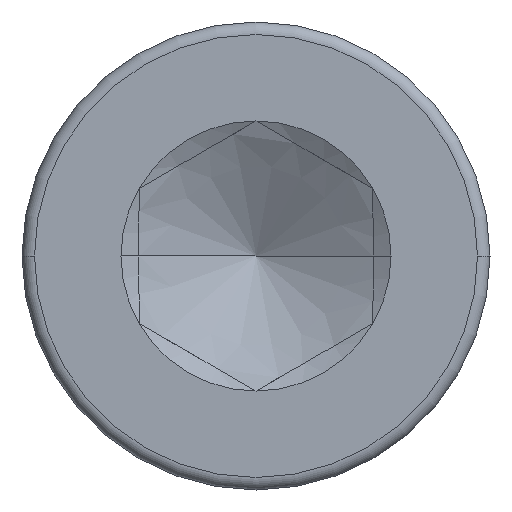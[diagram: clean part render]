
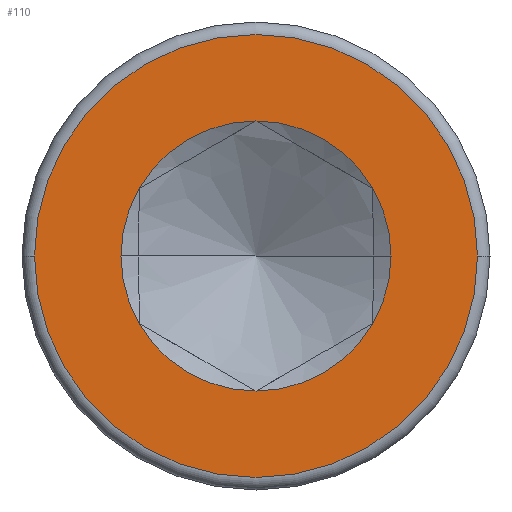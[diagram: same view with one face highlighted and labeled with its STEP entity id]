
A CAD part, left-side view. The second image highlights one B-rep face of the part: STEP entity #110.
In plain terms, the highlighted planar face has unit normal (-1, 0, 0).
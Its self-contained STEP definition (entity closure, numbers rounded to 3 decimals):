
#46=FACE_BOUND('',#189,.F.);
#52=PLANE('',#910);
#110=ADVANCED_FACE('',(#46,#149),#52,.T.);
#149=FACE_OUTER_BOUND('',#190,.F.);
#189=EDGE_LOOP('',(#254,#255,#256,#257,#258,#259,#260,#261));
#190=EDGE_LOOP('',(#262,#263));
#254=ORIENTED_EDGE('',*,*,#730,.T.);
#255=ORIENTED_EDGE('',*,*,#729,.T.);
#256=ORIENTED_EDGE('',*,*,#728,.T.);
#257=ORIENTED_EDGE('',*,*,#735,.T.);
#258=ORIENTED_EDGE('',*,*,#734,.T.);
#259=ORIENTED_EDGE('',*,*,#733,.T.);
#260=ORIENTED_EDGE('',*,*,#732,.T.);
#261=ORIENTED_EDGE('',*,*,#731,.T.);
#262=ORIENTED_EDGE('',*,*,#743,.F.);
#263=ORIENTED_EDGE('',*,*,#736,.F.);
#728=EDGE_CURVE('',#856,#846,#794,.T.);
#729=EDGE_CURVE('',#857,#856,#795,.T.);
#730=EDGE_CURVE('',#858,#857,#796,.T.);
#731=EDGE_CURVE('',#845,#858,#797,.T.);
#732=EDGE_CURVE('',#859,#845,#798,.T.);
#733=EDGE_CURVE('',#853,#859,#799,.T.);
#734=EDGE_CURVE('',#854,#853,#800,.T.);
#735=EDGE_CURVE('',#846,#854,#801,.T.);
#736=EDGE_CURVE('',#844,#843,#802,.T.);
#743=EDGE_CURVE('',#843,#844,#807,.T.);
#794=CIRCLE('',#881,0.866);
#795=CIRCLE('',#882,0.866);
#796=CIRCLE('',#883,0.866);
#797=CIRCLE('',#884,0.866);
#798=CIRCLE('',#885,0.866);
#799=CIRCLE('',#886,0.866);
#800=CIRCLE('',#887,0.866);
#801=CIRCLE('',#888,0.866);
#802=CIRCLE('',#889,1.42);
#807=CIRCLE('',#894,1.42);
#843=VERTEX_POINT('',#1156);
#844=VERTEX_POINT('',#1157);
#845=VERTEX_POINT('',#1158);
#846=VERTEX_POINT('',#1159);
#853=VERTEX_POINT('',#1166);
#854=VERTEX_POINT('',#1167);
#856=VERTEX_POINT('',#1169);
#857=VERTEX_POINT('',#1170);
#858=VERTEX_POINT('',#1171);
#859=VERTEX_POINT('',#1172);
#881=AXIS2_PLACEMENT_3D('',#1236,#974,#975);
#882=AXIS2_PLACEMENT_3D('',#1237,#976,#977);
#883=AXIS2_PLACEMENT_3D('',#1238,#978,#979);
#884=AXIS2_PLACEMENT_3D('',#1239,#980,#981);
#885=AXIS2_PLACEMENT_3D('',#1240,#982,#983);
#886=AXIS2_PLACEMENT_3D('',#1241,#984,#985);
#887=AXIS2_PLACEMENT_3D('',#1242,#986,#987);
#888=AXIS2_PLACEMENT_3D('',#1243,#988,#989);
#889=AXIS2_PLACEMENT_3D('',#1244,#990,#991);
#894=AXIS2_PLACEMENT_3D('',#1251,#1002,#1003);
#910=AXIS2_PLACEMENT_3D('',#1329,#1048,#1049);
#974=DIRECTION('',(-1.,0.,0.));
#975=DIRECTION('',(0.,0.866,0.5));
#976=DIRECTION('',(-1.,0.,0.));
#977=DIRECTION('',(0.,0.,1.));
#978=DIRECTION('',(-1.,0.,0.));
#979=DIRECTION('',(0.,-0.866,0.5));
#980=DIRECTION('',(-1.,0.,0.));
#981=DIRECTION('',(0.,-1.,0.));
#982=DIRECTION('',(-1.,0.,0.));
#983=DIRECTION('',(0.,-0.866,-0.5));
#984=DIRECTION('',(-1.,0.,0.));
#985=DIRECTION('',(0.,0.,-1.));
#986=DIRECTION('',(-1.,0.,0.));
#987=DIRECTION('',(0.,0.867,-0.499));
#988=DIRECTION('',(-1.,0.,0.));
#989=DIRECTION('',(0.,1.,0.));
#990=DIRECTION('',(-1.,0.,0.));
#991=DIRECTION('',(0.,1.,0.));
#1002=DIRECTION('',(-1.,0.,0.));
#1003=DIRECTION('',(0.,-1.,0.));
#1048=DIRECTION('',(-1.,0.,0.));
#1049=DIRECTION('',(0.,0.,1.));
#1156=CARTESIAN_POINT('',(201.938,-27.79,-44.5));
#1157=CARTESIAN_POINT('',(201.938,-24.95,-44.5));
#1158=CARTESIAN_POINT('',(201.938,-27.236,-44.5));
#1159=CARTESIAN_POINT('',(201.938,-25.505,-44.5));
#1166=CARTESIAN_POINT('',(201.938,-26.37,-45.366));
#1167=CARTESIAN_POINT('',(201.938,-25.62,-44.933));
#1169=CARTESIAN_POINT('',(201.938,-25.621,-44.067));
#1170=CARTESIAN_POINT('',(201.938,-26.37,-43.635));
#1171=CARTESIAN_POINT('',(201.938,-27.12,-44.067));
#1172=CARTESIAN_POINT('',(201.938,-27.12,-44.933));
#1236=CARTESIAN_POINT('',(201.938,-26.37,-44.5));
#1237=CARTESIAN_POINT('',(201.938,-26.37,-44.5));
#1238=CARTESIAN_POINT('',(201.938,-26.37,-44.5));
#1239=CARTESIAN_POINT('',(201.938,-26.37,-44.5));
#1240=CARTESIAN_POINT('',(201.938,-26.37,-44.5));
#1241=CARTESIAN_POINT('',(201.938,-26.37,-44.5));
#1242=CARTESIAN_POINT('',(201.938,-26.37,-44.5));
#1243=CARTESIAN_POINT('',(201.938,-26.37,-44.5));
#1244=CARTESIAN_POINT('',(201.938,-26.37,-44.5));
#1251=CARTESIAN_POINT('',(201.938,-26.37,-44.5));
#1329=CARTESIAN_POINT('',(201.938,-27.819,-45.948));
